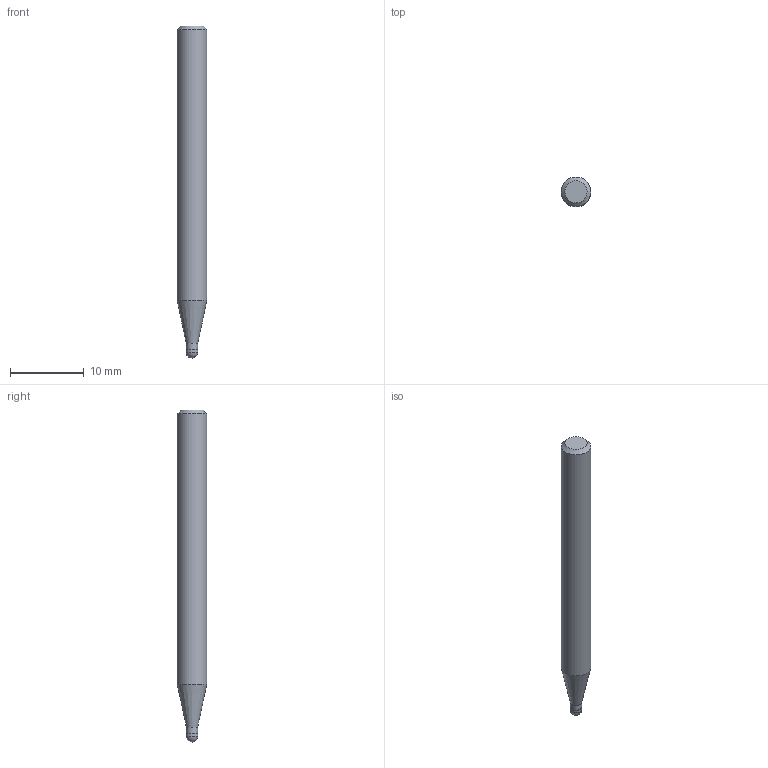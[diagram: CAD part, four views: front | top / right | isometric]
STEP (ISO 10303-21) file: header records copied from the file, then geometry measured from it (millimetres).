
FILE_DESCRIPTION((''),'2;1');
FILE_NAME('C:\Users\nsx150\AppData\Local\Temp\Mastercam 2021\ARV7HD45SN\TEMP.step','2023-06-13T16:36:44',(''),(''),'STEP Write','Mastercam 2021 ... CNC Software, Inc.','');
FILE_SCHEMA(('AUTOMOTIVE_DESIGN'));
Length unit declared in the file: millimetre
Products named in the file (1): None
Bounding box: 4 x 4 x 45 mm (x, y, z)
Volume: 507 mm3; surface area: 541.7 mm2
Topology: 2 solids, 2 shells, 9 faces, 14 edges, 8 vertices
Faces by surface type: plane 3, cylinder 3, cone 2, sphere 1
Full cylindrical faces by diameter (mm): 1.55 x1, 1.6 x1, 4 x1
Entity records: 211 total; most frequent: DIRECTION 36, CARTESIAN_POINT 25, AXIS2_PLACEMENT_3D 18, ORIENTED_EDGE 14, EDGE_LOOP 14, STYLED_ITEM 12, ADVANCED_FACE 9, FACE_BOUND 8
